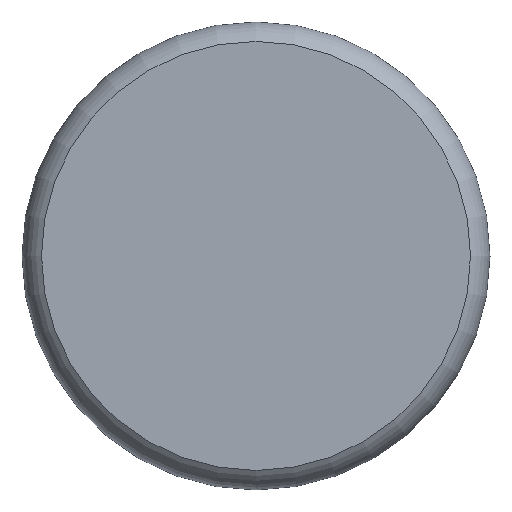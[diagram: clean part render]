
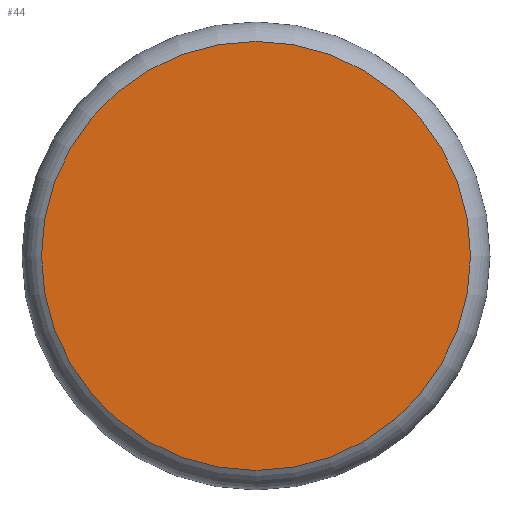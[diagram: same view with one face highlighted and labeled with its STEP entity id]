
A CAD part, top view. The second image highlights one B-rep face of the part: STEP entity #44.
In plain terms, the highlighted planar face has unit normal (0, 0, 1).
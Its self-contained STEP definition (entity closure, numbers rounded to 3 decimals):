
#3=CARTESIAN_POINT('',(0.,0.,1.732));
#5=CARTESIAN_POINT('',(11.,0.,1.732));
#7=VERTEX_POINT('',#5);
#10=DIRECTION('',(0.,0.,1.));
#12=DIRECTION('',(1.,0.,0.));
#15=AXIS2_PLACEMENT_3D('',#3,#10,#12);
#18=AXIS2_PLACEMENT_3D('',#3,#10,#12);
#20=CIRCLE('',#15,11.);
#23=EDGE_CURVE('',#7,#7,#20,.T.);
#40=ORIENTED_EDGE('',*,*,#23,.T.);
#41=EDGE_LOOP('',(#40));
#42=FACE_OUTER_BOUND('',#41,.T.);
#43=PLANE('',#18);
#44=ADVANCED_FACE('',(#42),#43,.T.);
